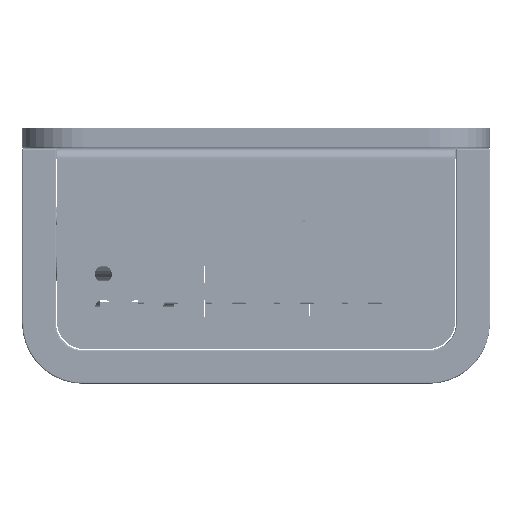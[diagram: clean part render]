
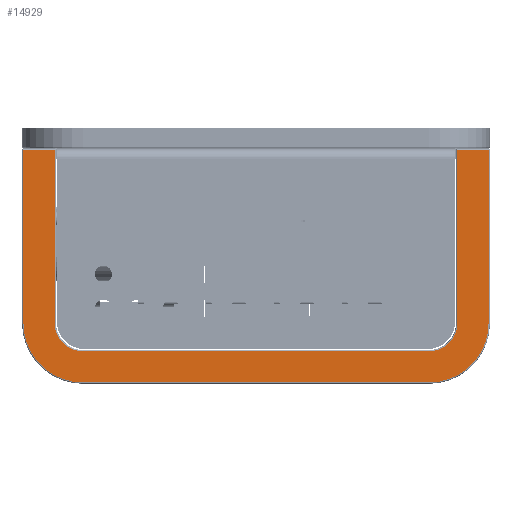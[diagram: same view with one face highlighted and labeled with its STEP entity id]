
A CAD part, left-side view. The second image highlights one B-rep face of the part: STEP entity #14929.
In plain terms, the highlighted planar face has unit normal (-1, 0, 0).
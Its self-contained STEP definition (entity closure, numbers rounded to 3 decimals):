
#13258=DIRECTION('',(0.,0.,-1.));
#13259=VECTOR('',#13258,51.);
#13260=CARTESIAN_POINT('',(-46.15,24.8,23.));
#13261=LINE('',#13260,#13259);
#13266=CARTESIAN_POINT('',(-46.15,16.,-28.));
#13267=DIRECTION('',(1.,0.,0.));
#13268=DIRECTION('',(0.,0.,-1.));
#13269=AXIS2_PLACEMENT_3D('',#13266,#13267,#13268);
#13271=CARTESIAN_POINT('',(-46.15,16.,23.));
#13272=DIRECTION('',(1.,0.,0.));
#13273=DIRECTION('',(0.,1.,0.));
#13274=AXIS2_PLACEMENT_3D('',#13271,#13272,#13273);
#13276=CARTESIAN_POINT('',(-46.15,16.,23.));
#13277=DIRECTION('',(-1.,0.,0.));
#13278=DIRECTION('',(0.,0.,1.));
#13279=AXIS2_PLACEMENT_3D('',#13276,#13277,#13278);
#13281=CARTESIAN_POINT('',(-46.15,16.,-28.));
#13282=DIRECTION('',(-1.,0.,0.));
#13283=DIRECTION('',(0.,1.,0.));
#13284=AXIS2_PLACEMENT_3D('',#13281,#13282,#13283);
#13286=DIRECTION('',(0.,-1.,0.));
#13287=VECTOR('',#13286,25.5);
#13288=CARTESIAN_POINT('',(-46.15,16.,-36.8));
#13289=LINE('',#13288,#13287);
#13332=DIRECTION('',(0.,0.,1.));
#13333=VECTOR('',#13332,4.6);
#13334=CARTESIAN_POINT('',(-46.15,-9.5,-36.8));
#13335=LINE('',#13334,#13333);
#13355=DIRECTION('',(0.,1.,0.));
#13356=VECTOR('',#13355,25.5);
#13357=CARTESIAN_POINT('',(-46.15,-9.5,-32.2));
#13358=LINE('',#13357,#13356);
#13378=DIRECTION('',(0.,0.,1.));
#13379=VECTOR('',#13378,51.);
#13380=CARTESIAN_POINT('',(-46.15,20.2,-28.));
#13381=LINE('',#13380,#13379);
#13401=DIRECTION('',(0.,-1.,0.));
#13402=VECTOR('',#13401,25.5);
#13403=CARTESIAN_POINT('',(-46.15,16.,27.2));
#13404=LINE('',#13403,#13402);
#13459=DIRECTION('',(0.,0.,1.));
#13460=VECTOR('',#13459,4.6);
#13461=CARTESIAN_POINT('',(-46.15,-9.5,27.2));
#13462=LINE('',#13461,#13460);
#13478=DIRECTION('',(0.,1.,0.));
#13479=VECTOR('',#13478,25.5);
#13480=CARTESIAN_POINT('',(-46.15,-9.5,31.8));
#13481=LINE('',#13480,#13479);
#14513=CARTESIAN_POINT('',(-46.15,24.8,23.));
#14514=CARTESIAN_POINT('',(-46.15,24.8,-28.));
#14515=VERTEX_POINT('',#14513);
#14516=VERTEX_POINT('',#14514);
#14517=CARTESIAN_POINT('',(-46.15,16.,-36.8));
#14518=CARTESIAN_POINT('',(-46.15,-9.5,-36.8));
#14519=VERTEX_POINT('',#14517);
#14520=VERTEX_POINT('',#14518);
#14521=CARTESIAN_POINT('',(-46.15,16.,31.8));
#14522=VERTEX_POINT('',#14521);
#14523=CARTESIAN_POINT('',(-46.15,-9.5,31.8));
#14524=VERTEX_POINT('',#14523);
#14525=CARTESIAN_POINT('',(-46.15,-9.5,27.2));
#14526=VERTEX_POINT('',#14525);
#14527=CARTESIAN_POINT('',(-46.15,16.,27.2));
#14528=VERTEX_POINT('',#14527);
#14529=CARTESIAN_POINT('',(-46.15,20.2,23.));
#14530=VERTEX_POINT('',#14529);
#14531=CARTESIAN_POINT('',(-46.15,20.2,-28.));
#14532=VERTEX_POINT('',#14531);
#14533=CARTESIAN_POINT('',(-46.15,16.,-32.2));
#14534=VERTEX_POINT('',#14533);
#14535=CARTESIAN_POINT('',(-46.15,-9.5,-32.2));
#14536=VERTEX_POINT('',#14535);
#14899=CARTESIAN_POINT('',(-46.15,-6.,-29.4));
#14900=DIRECTION('',(-1.,0.,0.));
#14901=DIRECTION('',(0.,0.,1.));
#14902=AXIS2_PLACEMENT_3D('',#14899,#14900,#14901);
#14903=PLANE('',#14902);
#14905=ORIENTED_EDGE('',*,*,#14904,.F.);
#14907=ORIENTED_EDGE('',*,*,#14906,.T.);
#14908=ORIENTED_EDGE('',*,*,#14889,.F.);
#14910=ORIENTED_EDGE('',*,*,#14909,.T.);
#14912=ORIENTED_EDGE('',*,*,#14911,.F.);
#14914=ORIENTED_EDGE('',*,*,#14913,.F.);
#14916=ORIENTED_EDGE('',*,*,#14915,.F.);
#14918=ORIENTED_EDGE('',*,*,#14917,.T.);
#14920=ORIENTED_EDGE('',*,*,#14919,.F.);
#14922=ORIENTED_EDGE('',*,*,#14921,.T.);
#14924=ORIENTED_EDGE('',*,*,#14923,.F.);
#14926=ORIENTED_EDGE('',*,*,#14925,.F.);
#14927=EDGE_LOOP('',(#14905,#14907,#14908,#14910,#14912,#14914,#14916,#14918,
#14920,#14922,#14924,#14926));
#14928=FACE_OUTER_BOUND('',#14927,.F.);
#14929=ADVANCED_FACE('',(#14928),#14903,.T.);
#13270=CIRCLE('',#13269,8.8);
#13275=CIRCLE('',#13274,8.8);
#13280=CIRCLE('',#13279,4.2);
#13285=CIRCLE('',#13284,4.2);
#14889=EDGE_CURVE('',#14515,#14516,#13261,.T.);
#14904=EDGE_CURVE('',#14519,#14520,#13289,.T.);
#14906=EDGE_CURVE('',#14519,#14516,#13270,.T.);
#14909=EDGE_CURVE('',#14515,#14522,#13275,.T.);
#14911=EDGE_CURVE('',#14524,#14522,#13481,.T.);
#14913=EDGE_CURVE('',#14526,#14524,#13462,.T.);
#14915=EDGE_CURVE('',#14528,#14526,#13404,.T.);
#14917=EDGE_CURVE('',#14528,#14530,#13280,.T.);
#14919=EDGE_CURVE('',#14532,#14530,#13381,.T.);
#14921=EDGE_CURVE('',#14532,#14534,#13285,.T.);
#14923=EDGE_CURVE('',#14536,#14534,#13358,.T.);
#14925=EDGE_CURVE('',#14520,#14536,#13335,.T.);
